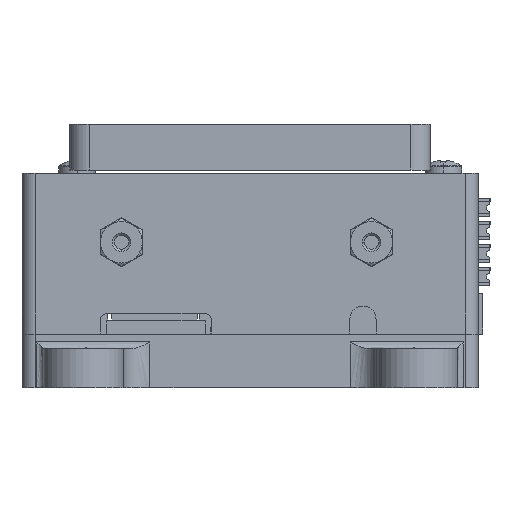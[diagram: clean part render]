
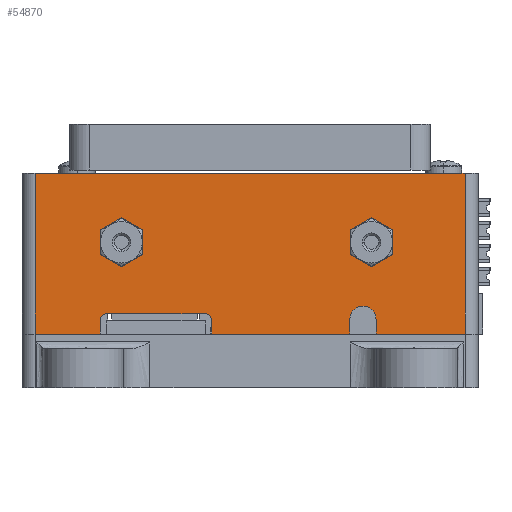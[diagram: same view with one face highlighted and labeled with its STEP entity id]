
A CAD part, left-side view. The second image highlights one B-rep face of the part: STEP entity #54870.
In plain terms, the highlighted free-form (B-spline) face has degree [1, 1] with [2, 2] control points.
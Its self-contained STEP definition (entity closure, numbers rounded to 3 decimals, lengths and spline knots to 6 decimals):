
#1600=B_SPLINE_SURFACE_WITH_KNOTS('',1,1,((#95173,#95174),(#95175,#95176)),
 .PLANE_SURF.,.F.,.F.,.F.,(2,2),(2,2),(0.,1.),(0.,1.),.UNSPECIFIED.);
#6466=LINE('',#93560,#12135);
#6646=LINE('',#94403,#12315);
#6831=LINE('',#95140,#12500);
#6843=LINE('',#95177,#12512);
#6844=LINE('',#95180,#12513);
#6845=LINE('',#95182,#12514);
#6846=LINE('',#95184,#12515);
#6847=LINE('',#95186,#12516);
#6848=LINE('',#95188,#12517);
#6849=LINE('',#95189,#12518);
#6850=LINE('',#95192,#12519);
#6851=LINE('',#95194,#12520);
#6852=LINE('',#95196,#12521);
#6853=LINE('',#95198,#12522);
#6854=LINE('',#95200,#12523);
#6855=LINE('',#95201,#12524);
#6856=LINE('',#95202,#12525);
#6857=LINE('',#95206,#12526);
#6858=LINE('',#95210,#12527);
#6859=LINE('',#95211,#12528);
#6860=LINE('',#95215,#12529);
#6861=LINE('',#95217,#12530);
#6862=LINE('',#95219,#12531);
#12135=VECTOR('',#66669,1.);
#12315=VECTOR('',#67319,1.);
#12500=VECTOR('',#67724,1.);
#12512=VECTOR('',#67748,1.);
#12513=VECTOR('',#67749,1.);
#12514=VECTOR('',#67750,1.);
#12515=VECTOR('',#67751,1.);
#12516=VECTOR('',#67752,1.);
#12517=VECTOR('',#67753,1.);
#12518=VECTOR('',#67754,1.);
#12519=VECTOR('',#67755,1.);
#12520=VECTOR('',#67756,1.);
#12521=VECTOR('',#67757,1.);
#12522=VECTOR('',#67758,1.);
#12523=VECTOR('',#67759,1.);
#12524=VECTOR('',#67760,1.);
#12525=VECTOR('',#67761,1.);
#12526=VECTOR('',#67764,1.);
#12527=VECTOR('',#67767,1.);
#12528=VECTOR('',#67768,1.);
#12529=VECTOR('',#67771,1.);
#12530=VECTOR('',#67772,1.);
#12531=VECTOR('',#67773,1.);
#27270=ORIENTED_EDGE('',*,*,#37008,.F.);
#27271=ORIENTED_EDGE('',*,*,#37009,.F.);
#27272=ORIENTED_EDGE('',*,*,#37010,.F.);
#27273=ORIENTED_EDGE('',*,*,#37011,.F.);
#27274=ORIENTED_EDGE('',*,*,#37012,.F.);
#27275=ORIENTED_EDGE('',*,*,#37013,.F.);
#27276=ORIENTED_EDGE('',*,*,#37014,.F.);
#27277=ORIENTED_EDGE('',*,*,#37015,.F.);
#27278=ORIENTED_EDGE('',*,*,#37016,.F.);
#27279=ORIENTED_EDGE('',*,*,#37017,.F.);
#27280=ORIENTED_EDGE('',*,*,#37018,.F.);
#27281=ORIENTED_EDGE('',*,*,#37019,.F.);
#27282=ORIENTED_EDGE('',*,*,#36276,.F.);
#27283=ORIENTED_EDGE('',*,*,#37020,.T.);
#27284=ORIENTED_EDGE('',*,*,#36695,.T.);
#27285=ORIENTED_EDGE('',*,*,#37021,.T.);
#27286=ORIENTED_EDGE('',*,*,#37022,.F.);
#27287=ORIENTED_EDGE('',*,*,#37023,.T.);
#27288=ORIENTED_EDGE('',*,*,#37024,.F.);
#27289=ORIENTED_EDGE('',*,*,#37025,.F.);
#27290=ORIENTED_EDGE('',*,*,#36990,.T.);
#27291=ORIENTED_EDGE('',*,*,#37026,.F.);
#27292=ORIENTED_EDGE('',*,*,#37027,.T.);
#27293=ORIENTED_EDGE('',*,*,#37028,.F.);
#27294=ORIENTED_EDGE('',*,*,#37029,.T.);
#27295=ORIENTED_EDGE('',*,*,#37030,.T.);
#36276=EDGE_CURVE('',#42155,#42156,#6466,.T.);
#36695=EDGE_CURVE('',#42564,#42565,#6646,.T.);
#36990=EDGE_CURVE('',#42819,#42821,#6831,.T.);
#37008=EDGE_CURVE('',#42833,#42834,#6843,.T.);
#37009=EDGE_CURVE('',#42835,#42833,#6844,.T.);
#37010=EDGE_CURVE('',#42836,#42835,#6845,.T.);
#37011=EDGE_CURVE('',#42837,#42836,#6846,.T.);
#37012=EDGE_CURVE('',#42838,#42837,#6847,.T.);
#37013=EDGE_CURVE('',#42834,#42838,#6848,.T.);
#37014=EDGE_CURVE('',#42839,#42840,#6849,.T.);
#37015=EDGE_CURVE('',#42841,#42839,#6850,.T.);
#37016=EDGE_CURVE('',#42842,#42841,#6851,.T.);
#37017=EDGE_CURVE('',#42843,#42842,#6852,.T.);
#37018=EDGE_CURVE('',#42844,#42843,#6853,.T.);
#37019=EDGE_CURVE('',#42840,#42844,#6854,.T.);
#37020=EDGE_CURVE('',#42155,#42564,#6855,.T.);
#37021=EDGE_CURVE('',#42565,#42845,#6856,.T.);
#37022=EDGE_CURVE('',#42846,#42845,#45093,.T.);
#37023=EDGE_CURVE('',#42846,#42847,#6857,.T.);
#37024=EDGE_CURVE('',#42848,#42847,#45094,.T.);
#37025=EDGE_CURVE('',#42819,#42848,#6858,.T.);
#37026=EDGE_CURVE('',#42849,#42821,#6859,.T.);
#37027=EDGE_CURVE('',#42849,#42850,#45095,.T.);
#37028=EDGE_CURVE('',#42851,#42850,#6860,.T.);
#37029=EDGE_CURVE('',#42851,#42852,#6861,.T.);
#37030=EDGE_CURVE('',#42852,#42156,#6862,.F.);
#42155=VERTEX_POINT('',#93559);
#42156=VERTEX_POINT('',#93561);
#42564=VERTEX_POINT('',#94404);
#42565=VERTEX_POINT('',#94405);
#42819=VERTEX_POINT('',#95135);
#42821=VERTEX_POINT('',#95139);
#42833=VERTEX_POINT('',#95178);
#42834=VERTEX_POINT('',#95179);
#42835=VERTEX_POINT('',#95181);
#42836=VERTEX_POINT('',#95183);
#42837=VERTEX_POINT('',#95185);
#42838=VERTEX_POINT('',#95187);
#42839=VERTEX_POINT('',#95190);
#42840=VERTEX_POINT('',#95191);
#42841=VERTEX_POINT('',#95193);
#42842=VERTEX_POINT('',#95195);
#42843=VERTEX_POINT('',#95197);
#42844=VERTEX_POINT('',#95199);
#42845=VERTEX_POINT('',#95203);
#42846=VERTEX_POINT('',#95205);
#42847=VERTEX_POINT('',#95207);
#42848=VERTEX_POINT('',#95209);
#42849=VERTEX_POINT('',#95212);
#42850=VERTEX_POINT('',#95214);
#42851=VERTEX_POINT('',#95216);
#42852=VERTEX_POINT('',#95218);
#45093=CIRCLE('',#58876,0.001);
#45094=CIRCLE('',#58877,0.001);
#45095=CIRCLE('',#58878,0.002);
#47735=EDGE_LOOP('',(#27270,#27271,#27272,#27273,#27274,#27275));
#47736=EDGE_LOOP('',(#27276,#27277,#27278,#27279,#27280,#27281));
#47737=EDGE_LOOP('',(#27282,#27283,#27284,#27285,#27286,#27287,#27288,#27289,
#27290,#27291,#27292,#27293,#27294,#27295));
#50902=FACE_BOUND('',#47735,.T.);
#50903=FACE_BOUND('',#47736,.T.);
#50904=FACE_BOUND('',#47737,.T.);
#54870=ADVANCED_FACE('',(#50902,#50903,#50904),#1600,.F.);
#58876=AXIS2_PLACEMENT_3D('',#95204,#67762,#67763);
#58877=AXIS2_PLACEMENT_3D('',#95208,#67765,#67766);
#58878=AXIS2_PLACEMENT_3D('',#95213,#67769,#67770);
#66669=DIRECTION('',(0.,-1.,0.));
#67319=DIRECTION('',(0.,-1.,0.));
#67724=DIRECTION('',(0.,-1.,0.));
#67748=DIRECTION('',(0.,0.,1.));
#67749=DIRECTION('',(0.,-0.866,0.5));
#67750=DIRECTION('',(0.,-0.866,-0.5));
#67751=DIRECTION('',(0.,0.,-1.));
#67752=DIRECTION('',(0.,0.866,-0.5));
#67753=DIRECTION('',(0.,0.866,0.5));
#67754=DIRECTION('',(0.,0.,-1.));
#67755=DIRECTION('',(0.,0.866,-0.5));
#67756=DIRECTION('',(0.,0.866,0.5));
#67757=DIRECTION('',(0.,0.,1.));
#67758=DIRECTION('',(0.,-0.866,0.5));
#67759=DIRECTION('',(0.,-0.866,-0.5));
#67760=DIRECTION('',(0.,0.,-1.));
#67761=DIRECTION('',(0.,0.,1.));
#67762=DIRECTION('',(-1.,0.,0.));
#67763=DIRECTION('',(0.,-1.,0.));
#67764=DIRECTION('',(0.,-1.,0.));
#67765=DIRECTION('',(-1.,0.,0.));
#67766=DIRECTION('',(0.,-1.,0.));
#67767=DIRECTION('',(0.,0.,1.));
#67768=DIRECTION('',(0.,0.,-1.));
#67769=DIRECTION('',(1.,0.,0.));
#67770=DIRECTION('',(0.,1.,0.));
#67771=DIRECTION('',(0.,0.,1.));
#67772=DIRECTION('',(0.,-1.,0.));
#67773=DIRECTION('',(0.,0.,-1.));
#93559=CARTESIAN_POINT('',(-0.0023,0.0652,0.0245));
#93560=CARTESIAN_POINT('',(-0.0023,0.03245,0.0245));
#93561=CARTESIAN_POINT('',(-0.0023,-0.0003,0.0245));
#94403=CARTESIAN_POINT('',(-0.0023,0.03245,0.));
#94404=CARTESIAN_POINT('',(-0.0023,0.0652,0.));
#94405=CARTESIAN_POINT('',(-0.0023,0.0553,0.));
#95135=CARTESIAN_POINT('',(-0.0023,0.0383,0.));
#95139=CARTESIAN_POINT('',(-0.0023,0.01725,0.));
#95140=CARTESIAN_POINT('',(-0.0023,0.03245,0.));
#95173=CARTESIAN_POINT('',(-0.0023,-0.0003,0.));
#95174=CARTESIAN_POINT('',(-0.0023,-0.0003,0.0245));
#95175=CARTESIAN_POINT('',(-0.0023,0.0652,0.));
#95176=CARTESIAN_POINT('',(-0.0023,0.0652,0.0245));
#95177=CARTESIAN_POINT('',(-0.0023,0.048799,0.014));
#95178=CARTESIAN_POINT('',(-0.0023,0.048799,0.012123));
#95179=CARTESIAN_POINT('',(-0.0023,0.048799,0.015876));
#95180=CARTESIAN_POINT('',(-0.0023,0.050424,0.011185));
#95181=CARTESIAN_POINT('',(-0.0023,0.052049,0.010247));
#95182=CARTESIAN_POINT('',(-0.0023,0.053674,0.011185));
#95183=CARTESIAN_POINT('',(-0.0023,0.055299,0.012123));
#95184=CARTESIAN_POINT('',(-0.0023,0.055299,0.014));
#95185=CARTESIAN_POINT('',(-0.0023,0.055299,0.015876));
#95186=CARTESIAN_POINT('',(-0.0023,0.053674,0.016814));
#95187=CARTESIAN_POINT('',(-0.0023,0.052049,0.017753));
#95188=CARTESIAN_POINT('',(-0.0023,0.050424,0.016814));
#95189=CARTESIAN_POINT('',(-0.0023,0.017199,0.014));
#95190=CARTESIAN_POINT('',(-0.0023,0.017199,0.015876));
#95191=CARTESIAN_POINT('',(-0.0023,0.017199,0.012123));
#95192=CARTESIAN_POINT('',(-0.0023,0.015574,0.016814));
#95193=CARTESIAN_POINT('',(-0.0023,0.013949,0.017753));
#95194=CARTESIAN_POINT('',(-0.0023,0.012324,0.016814));
#95195=CARTESIAN_POINT('',(-0.0023,0.010699,0.015876));
#95196=CARTESIAN_POINT('',(-0.0023,0.010699,0.014));
#95197=CARTESIAN_POINT('',(-0.0023,0.010699,0.012123));
#95198=CARTESIAN_POINT('',(-0.0023,0.012324,0.011185));
#95199=CARTESIAN_POINT('',(-0.0023,0.013949,0.010247));
#95200=CARTESIAN_POINT('',(-0.0023,0.015574,0.011185));
#95201=CARTESIAN_POINT('',(-0.0023,0.0652,0.));
#95202=CARTESIAN_POINT('',(-0.0023,0.0553,0.00105));
#95203=CARTESIAN_POINT('',(-0.0023,0.0553,0.0021));
#95204=CARTESIAN_POINT('',(-0.0023,0.0543,0.0021));
#95205=CARTESIAN_POINT('',(-0.0023,0.0543,0.0031));
#95206=CARTESIAN_POINT('',(-0.0023,0.0468,0.0031));
#95207=CARTESIAN_POINT('',(-0.0023,0.0393,0.0031));
#95208=CARTESIAN_POINT('',(-0.0023,0.0393,0.0021));
#95209=CARTESIAN_POINT('',(-0.0023,0.0383,0.0021));
#95210=CARTESIAN_POINT('',(-0.0023,0.0383,0.00105));
#95211=CARTESIAN_POINT('',(-0.0023,0.01725,0.022502));
#95212=CARTESIAN_POINT('',(-0.0023,0.01725,0.00225));
#95213=CARTESIAN_POINT('',(-0.0023,0.01525,0.00225));
#95214=CARTESIAN_POINT('',(-0.0023,0.01325,0.00225));
#95215=CARTESIAN_POINT('',(-0.0023,0.01325,0.022502));
#95216=CARTESIAN_POINT('',(-0.0023,0.01325,0.));
#95217=CARTESIAN_POINT('',(-0.0023,0.03245,0.));
#95218=CARTESIAN_POINT('',(-0.0023,-0.0003,0.));
#95219=CARTESIAN_POINT('',(-0.0023,-0.0003,0.022502));
